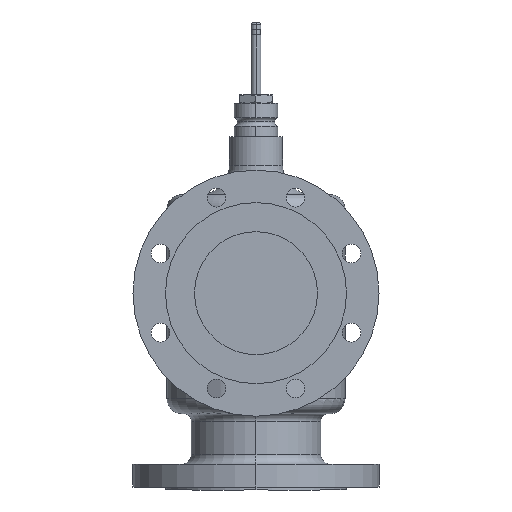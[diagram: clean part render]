
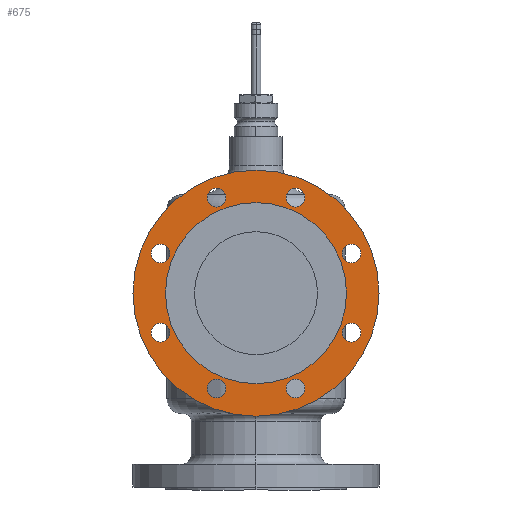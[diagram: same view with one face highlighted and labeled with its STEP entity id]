
A CAD part, front view. The second image highlights one B-rep face of the part: STEP entity #675.
In plain terms, the highlighted planar face has unit normal (0, -1, 0).
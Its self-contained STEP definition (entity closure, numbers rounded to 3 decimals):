
#94=PLANE('',#3260);
#146=FACE_BOUND('',#1040,.T.);
#147=FACE_BOUND('',#1041,.T.);
#148=FACE_BOUND('',#1042,.T.);
#149=FACE_BOUND('',#1043,.T.);
#150=FACE_BOUND('',#1044,.T.);
#151=FACE_BOUND('',#1045,.T.);
#152=FACE_BOUND('',#1046,.T.);
#153=FACE_BOUND('',#1047,.T.);
#154=FACE_BOUND('',#1048,.T.);
#155=FACE_BOUND('',#1049,.T.);
#675=ADVANCED_FACE('',(#146,#147,#148,#149,#150,#151,#152,#153,#154,#155),
#94,.T.);
#1040=EDGE_LOOP('',(#1677,#1678));
#1041=EDGE_LOOP('',(#1679,#1680));
#1042=EDGE_LOOP('',(#1681,#1682));
#1043=EDGE_LOOP('',(#1683,#1684));
#1044=EDGE_LOOP('',(#1685,#1686));
#1045=EDGE_LOOP('',(#1687,#1688));
#1046=EDGE_LOOP('',(#1689,#1690));
#1047=EDGE_LOOP('',(#1691,#1692));
#1048=EDGE_LOOP('',(#1693,#1694));
#1049=EDGE_LOOP('',(#1695,#1696));
#1677=ORIENTED_EDGE('',*,*,#2641,.F.);
#1678=ORIENTED_EDGE('',*,*,#2596,.F.);
#1679=ORIENTED_EDGE('',*,*,#2628,.T.);
#1680=ORIENTED_EDGE('',*,*,#2629,.T.);
#1681=ORIENTED_EDGE('',*,*,#2625,.T.);
#1682=ORIENTED_EDGE('',*,*,#2630,.T.);
#1683=ORIENTED_EDGE('',*,*,#2622,.T.);
#1684=ORIENTED_EDGE('',*,*,#2631,.T.);
#1685=ORIENTED_EDGE('',*,*,#2619,.T.);
#1686=ORIENTED_EDGE('',*,*,#2632,.T.);
#1687=ORIENTED_EDGE('',*,*,#2616,.T.);
#1688=ORIENTED_EDGE('',*,*,#2633,.T.);
#1689=ORIENTED_EDGE('',*,*,#2613,.T.);
#1690=ORIENTED_EDGE('',*,*,#2634,.T.);
#1691=ORIENTED_EDGE('',*,*,#2610,.T.);
#1692=ORIENTED_EDGE('',*,*,#2635,.T.);
#1693=ORIENTED_EDGE('',*,*,#2607,.T.);
#1694=ORIENTED_EDGE('',*,*,#2636,.T.);
#1695=ORIENTED_EDGE('',*,*,#2640,.T.);
#1696=ORIENTED_EDGE('',*,*,#2598,.T.);
#2249=VERTEX_POINT('',#8061);
#2250=VERTEX_POINT('',#8063);
#2251=VERTEX_POINT('',#8067);
#2253=VERTEX_POINT('',#8070);
#2259=VERTEX_POINT('',#8085);
#2260=VERTEX_POINT('',#8087);
#2261=VERTEX_POINT('',#8091);
#2262=VERTEX_POINT('',#8093);
#2263=VERTEX_POINT('',#8097);
#2264=VERTEX_POINT('',#8099);
#2265=VERTEX_POINT('',#8103);
#2266=VERTEX_POINT('',#8105);
#2267=VERTEX_POINT('',#8109);
#2268=VERTEX_POINT('',#8111);
#2269=VERTEX_POINT('',#8115);
#2270=VERTEX_POINT('',#8117);
#2271=VERTEX_POINT('',#8121);
#2272=VERTEX_POINT('',#8123);
#2273=VERTEX_POINT('',#8127);
#2274=VERTEX_POINT('',#8129);
#2596=EDGE_CURVE('',#2250,#2249,#2924,.T.);
#2598=EDGE_CURVE('',#2253,#2251,#2925,.T.);
#2607=EDGE_CURVE('',#2259,#2260,#2929,.T.);
#2610=EDGE_CURVE('',#2261,#2262,#2930,.T.);
#2613=EDGE_CURVE('',#2263,#2264,#2931,.T.);
#2616=EDGE_CURVE('',#2265,#2266,#2932,.T.);
#2619=EDGE_CURVE('',#2267,#2268,#2933,.T.);
#2622=EDGE_CURVE('',#2269,#2270,#2934,.T.);
#2625=EDGE_CURVE('',#2271,#2272,#2935,.T.);
#2628=EDGE_CURVE('',#2273,#2274,#2936,.T.);
#2629=EDGE_CURVE('',#2274,#2273,#2937,.T.);
#2630=EDGE_CURVE('',#2272,#2271,#2938,.T.);
#2631=EDGE_CURVE('',#2270,#2269,#2939,.T.);
#2632=EDGE_CURVE('',#2268,#2267,#2940,.T.);
#2633=EDGE_CURVE('',#2266,#2265,#2941,.T.);
#2634=EDGE_CURVE('',#2264,#2263,#2942,.T.);
#2635=EDGE_CURVE('',#2262,#2261,#2943,.T.);
#2636=EDGE_CURVE('',#2260,#2259,#2944,.T.);
#2640=EDGE_CURVE('',#2251,#2253,#2948,.T.);
#2641=EDGE_CURVE('',#2249,#2250,#2949,.T.);
#2924=CIRCLE('',#3211,125.);
#2925=CIRCLE('',#3213,92.);
#2929=CIRCLE('',#3219,9.5);
#2930=CIRCLE('',#3221,9.5);
#2931=CIRCLE('',#3223,9.5);
#2932=CIRCLE('',#3225,9.5);
#2933=CIRCLE('',#3227,9.5);
#2934=CIRCLE('',#3229,9.5);
#2935=CIRCLE('',#3231,9.5);
#2936=CIRCLE('',#3233,9.5);
#2937=CIRCLE('',#3235,9.5);
#2938=CIRCLE('',#3237,9.5);
#2939=CIRCLE('',#3239,9.5);
#2940=CIRCLE('',#3241,9.5);
#2941=CIRCLE('',#3243,9.5);
#2942=CIRCLE('',#3245,9.5);
#2943=CIRCLE('',#3247,9.5);
#2944=CIRCLE('',#3249,9.5);
#2948=CIRCLE('',#3255,92.);
#2949=CIRCLE('',#3258,125.);
#3211=AXIS2_PLACEMENT_3D('',#8064,#3794,#3795);
#3213=AXIS2_PLACEMENT_3D('',#8069,#3799,#3800);
#3219=AXIS2_PLACEMENT_3D('',#8088,#3816,#3817);
#3221=AXIS2_PLACEMENT_3D('',#8094,#3822,#3823);
#3223=AXIS2_PLACEMENT_3D('',#8100,#3828,#3829);
#3225=AXIS2_PLACEMENT_3D('',#8106,#3834,#3835);
#3227=AXIS2_PLACEMENT_3D('',#8112,#3840,#3841);
#3229=AXIS2_PLACEMENT_3D('',#8118,#3846,#3847);
#3231=AXIS2_PLACEMENT_3D('',#8124,#3852,#3853);
#3233=AXIS2_PLACEMENT_3D('',#8130,#3858,#3859);
#3235=AXIS2_PLACEMENT_3D('',#8132,#3862,#3863);
#3237=AXIS2_PLACEMENT_3D('',#8134,#3866,#3867);
#3239=AXIS2_PLACEMENT_3D('',#8136,#3870,#3871);
#3241=AXIS2_PLACEMENT_3D('',#8138,#3874,#3875);
#3243=AXIS2_PLACEMENT_3D('',#8140,#3878,#3879);
#3245=AXIS2_PLACEMENT_3D('',#8142,#3882,#3883);
#3247=AXIS2_PLACEMENT_3D('',#8144,#3886,#3887);
#3249=AXIS2_PLACEMENT_3D('',#8146,#3890,#3891);
#3255=AXIS2_PLACEMENT_3D('',#8152,#3902,#3903);
#3258=AXIS2_PLACEMENT_3D('',#8155,#3908,#3909);
#3260=AXIS2_PLACEMENT_3D('',#8157,#3912,#3913);
#3794=DIRECTION('',(0.,1.,0.));
#3795=DIRECTION('',(0.,0.,1.));
#3799=DIRECTION('',(0.,1.,0.));
#3800=DIRECTION('',(0.,0.,1.));
#3816=DIRECTION('',(0.,1.,0.));
#3817=DIRECTION('',(0.,0.,-1.));
#3822=DIRECTION('',(0.,1.,0.));
#3823=DIRECTION('',(0.,0.,-1.));
#3828=DIRECTION('',(0.,1.,0.));
#3829=DIRECTION('',(0.,0.,-1.));
#3834=DIRECTION('',(0.,1.,0.));
#3835=DIRECTION('',(0.,0.,-1.));
#3840=DIRECTION('',(0.,1.,0.));
#3841=DIRECTION('',(0.,0.,-1.));
#3846=DIRECTION('',(0.,1.,0.));
#3847=DIRECTION('',(0.,0.,-1.));
#3852=DIRECTION('',(0.,1.,0.));
#3853=DIRECTION('',(0.,0.,-1.));
#3858=DIRECTION('',(0.,1.,0.));
#3859=DIRECTION('',(0.,0.,-1.));
#3862=DIRECTION('',(0.,1.,0.));
#3863=DIRECTION('',(0.,0.,-1.));
#3866=DIRECTION('',(0.,1.,0.));
#3867=DIRECTION('',(0.,0.,-1.));
#3870=DIRECTION('',(0.,1.,0.));
#3871=DIRECTION('',(0.,0.,-1.));
#3874=DIRECTION('',(0.,1.,0.));
#3875=DIRECTION('',(0.,0.,-1.));
#3878=DIRECTION('',(0.,1.,0.));
#3879=DIRECTION('',(0.,0.,-1.));
#3882=DIRECTION('',(0.,1.,0.));
#3883=DIRECTION('',(0.,0.,-1.));
#3886=DIRECTION('',(0.,1.,0.));
#3887=DIRECTION('',(0.,0.,-1.));
#3890=DIRECTION('',(0.,1.,0.));
#3891=DIRECTION('',(0.,0.,-1.));
#3902=DIRECTION('',(0.,1.,0.));
#3903=DIRECTION('',(0.,0.,1.));
#3908=DIRECTION('',(0.,1.,0.));
#3909=DIRECTION('',(0.,0.,1.));
#3912=DIRECTION('',(0.,-1.,0.));
#3913=DIRECTION('',(0.,0.,1.));
#8061=CARTESIAN_POINT('',(0.,203.,125.));
#8063=CARTESIAN_POINT('',(0.,203.,-125.));
#8064=CARTESIAN_POINT('',(0.,203.,0.));
#8067=CARTESIAN_POINT('',(0.,203.,92.));
#8069=CARTESIAN_POINT('',(0.,203.,0.));
#8070=CARTESIAN_POINT('',(0.,203.,-92.));
#8085=CARTESIAN_POINT('',(97.007,203.,30.682));
#8087=CARTESIAN_POINT('',(97.007,203.,49.682));
#8088=CARTESIAN_POINT('',(97.007,203.,40.182));
#8091=CARTESIAN_POINT('',(40.182,203.,87.507));
#8093=CARTESIAN_POINT('',(40.182,203.,106.507));
#8094=CARTESIAN_POINT('',(40.182,203.,97.007));
#8097=CARTESIAN_POINT('',(-40.182,203.,-106.507));
#8099=CARTESIAN_POINT('',(-40.182,203.,-87.507));
#8100=CARTESIAN_POINT('',(-40.182,203.,-97.007));
#8103=CARTESIAN_POINT('',(-97.007,203.,-49.682));
#8105=CARTESIAN_POINT('',(-97.007,203.,-30.682));
#8106=CARTESIAN_POINT('',(-97.007,203.,-40.182));
#8109=CARTESIAN_POINT('',(-97.007,203.,30.682));
#8111=CARTESIAN_POINT('',(-97.007,203.,49.682));
#8112=CARTESIAN_POINT('',(-97.007,203.,40.182));
#8115=CARTESIAN_POINT('',(-40.182,203.,87.507));
#8117=CARTESIAN_POINT('',(-40.182,203.,106.507));
#8118=CARTESIAN_POINT('',(-40.182,203.,97.007));
#8121=CARTESIAN_POINT('',(40.182,203.,-106.507));
#8123=CARTESIAN_POINT('',(40.182,203.,-87.507));
#8124=CARTESIAN_POINT('',(40.182,203.,-97.007));
#8127=CARTESIAN_POINT('',(97.007,203.,-49.682));
#8129=CARTESIAN_POINT('',(97.007,203.,-30.682));
#8130=CARTESIAN_POINT('',(97.007,203.,-40.182));
#8132=CARTESIAN_POINT('',(97.007,203.,-40.182));
#8134=CARTESIAN_POINT('',(40.182,203.,-97.007));
#8136=CARTESIAN_POINT('',(-40.182,203.,97.007));
#8138=CARTESIAN_POINT('',(-97.007,203.,40.182));
#8140=CARTESIAN_POINT('',(-97.007,203.,-40.182));
#8142=CARTESIAN_POINT('',(-40.182,203.,-97.007));
#8144=CARTESIAN_POINT('',(40.182,203.,97.007));
#8146=CARTESIAN_POINT('',(97.007,203.,40.182));
#8152=CARTESIAN_POINT('',(0.,203.,0.));
#8155=CARTESIAN_POINT('',(0.,203.,0.));
#8157=CARTESIAN_POINT('',(125.,203.,-125.));
